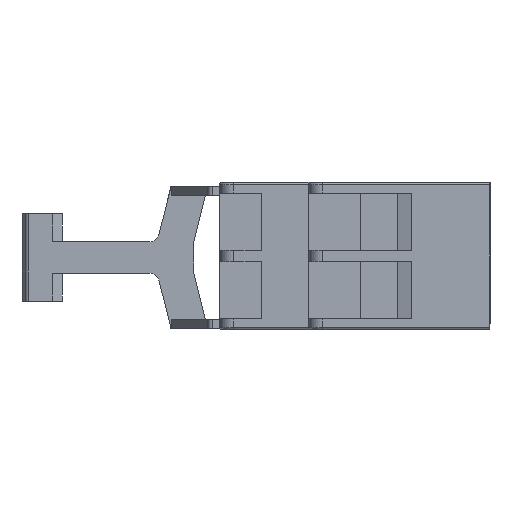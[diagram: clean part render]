
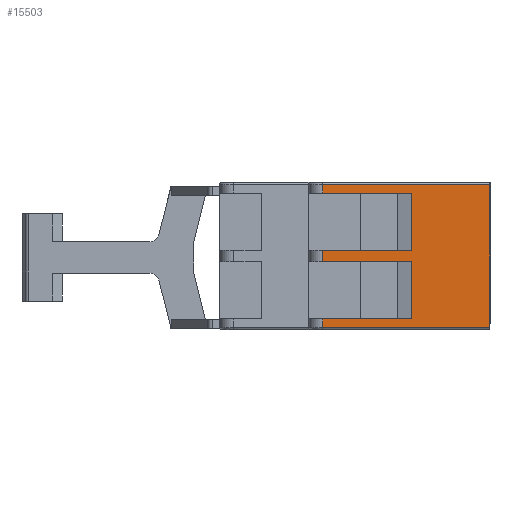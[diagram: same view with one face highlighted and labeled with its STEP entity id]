
A CAD part, left-side view. The second image highlights one B-rep face of the part: STEP entity #15503.
In plain terms, the highlighted planar face has unit normal (-1, 0, 0).
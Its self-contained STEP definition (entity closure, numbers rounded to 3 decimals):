
#59 = DIRECTION ( 'NONE',  ( 0., 0., 1. ) ) ;
#339 = DIRECTION ( 'NONE',  ( 0., 0., 1. ) ) ;
#785 = DIRECTION ( 'NONE',  ( 0., 0., 1. ) ) ;
#1073 = CARTESIAN_POINT ( 'NONE',  ( 0., 8.4, -6.75 ) ) ;
#1186 = VERTEX_POINT ( 'NONE', #23984 ) ;
#1610 = VERTEX_POINT ( 'NONE', #17027 ) ;
#1654 = ORIENTED_EDGE ( 'NONE', *, *, #24416, .F. ) ;
#2019 = VECTOR ( 'NONE', #14971, 1000. ) ;
#2100 = LINE ( 'NONE', #14652, #16519 ) ;
#3448 = FACE_OUTER_BOUND ( 'NONE', #13104, .T. ) ;
#3794 = EDGE_CURVE ( 'NONE', #9453, #18609, #6363, .T. ) ;
#3979 = EDGE_CURVE ( 'NONE', #18609, #1610, #13470, .T. ) ;
#4182 = CARTESIAN_POINT ( 'NONE',  ( 0., 0., 6.75 ) ) ;
#4527 = DIRECTION ( 'NONE',  ( 0., 1., 0. ) ) ;
#4717 = PLANE ( 'NONE',  #8297 ) ;
#5031 = CARTESIAN_POINT ( 'NONE',  ( 0., 0., -0.6 ) ) ;
#5145 = ORIENTED_EDGE ( 'NONE', *, *, #3979, .F. ) ;
#5231 = CARTESIAN_POINT ( 'NONE',  ( 0., 0., -7.65 ) ) ;
#5336 = ORIENTED_EDGE ( 'NONE', *, *, #9477, .F. ) ;
#5792 = VECTOR ( 'NONE', #339, 1000. ) ;
#6098 = VECTOR ( 'NONE', #4527, 1000. ) ;
#6236 = VECTOR ( 'NONE', #11889, 1000. ) ;
#6363 = LINE ( 'NONE', #4182, #6098 ) ;
#7192 = VERTEX_POINT ( 'NONE', #1073 ) ;
#7268 = CARTESIAN_POINT ( 'NONE',  ( 0., 8.4, 8. ) ) ;
#7383 = VECTOR ( 'NONE', #13967, 1000. ) ;
#8297 = AXIS2_PLACEMENT_3D ( 'NONE', #24148, #8773, #22264 ) ;
#8598 = CARTESIAN_POINT ( 'NONE',  ( 0., 0., -6.75 ) ) ;
#8773 = DIRECTION ( 'NONE',  ( 1., 0., 0. ) ) ;
#9453 = VERTEX_POINT ( 'NONE', #14894 ) ;
#9477 = EDGE_CURVE ( 'NONE', #1610, #23826, #14962, .T. ) ;
#9788 = VECTOR ( 'NONE', #14982, 1000. ) ;
#9881 = EDGE_CURVE ( 'NONE', #21869, #20169, #24444, .T. ) ;
#10242 = CARTESIAN_POINT ( 'NONE',  ( 0., 0., 8. ) ) ;
#10397 = ORIENTED_EDGE ( 'NONE', *, *, #13976, .F. ) ;
#10917 = ORIENTED_EDGE ( 'NONE', *, *, #24900, .F. ) ;
#11630 = VERTEX_POINT ( 'NONE', #14820 ) ;
#11713 = EDGE_CURVE ( 'NONE', #7192, #21869, #15006, .T. ) ;
#11889 = DIRECTION ( 'NONE',  ( 0., -1., 0. ) ) ;
#11956 = CARTESIAN_POINT ( 'NONE',  ( 0., 17.95, -0.6 ) ) ;
#12054 = CARTESIAN_POINT ( 'NONE',  ( 0., 0., -7.65 ) ) ;
#12302 = EDGE_CURVE ( 'NONE', #15713, #9453, #17647, .T. ) ;
#12424 = ORIENTED_EDGE ( 'NONE', *, *, #24479, .F. ) ;
#13104 = EDGE_LOOP ( 'NONE', ( #10917, #18502, #5336, #5145, #23449, #16584, #10397, #19012, #18976, #16517, #1654, #12424 ) ) ;
#13470 = LINE ( 'NONE', #21137, #14651 ) ;
#13967 = DIRECTION ( 'NONE',  ( 0., 1., 0. ) ) ;
#13976 = EDGE_CURVE ( 'NONE', #15972, #15713, #21163, .T. ) ;
#14651 = VECTOR ( 'NONE', #59, 1000. ) ;
#14652 = CARTESIAN_POINT ( 'NONE',  ( 0., 17.95, 8. ) ) ;
#14804 = VECTOR ( 'NONE', #18725, 1000. ) ;
#14820 = CARTESIAN_POINT ( 'NONE',  ( 0., 17.95, -6.75 ) ) ;
#14894 = CARTESIAN_POINT ( 'NONE',  ( 0., 8.4, 6.75 ) ) ;
#14962 = LINE ( 'NONE', #20665, #9788 ) ;
#14971 = DIRECTION ( 'NONE',  ( 0., 0., 1. ) ) ;
#14982 = DIRECTION ( 'NONE',  ( 0., -1., 0. ) ) ;
#15006 = LINE ( 'NONE', #15159, #19480 ) ;
#15036 = VECTOR ( 'NONE', #785, 1000. ) ;
#15159 = CARTESIAN_POINT ( 'NONE',  ( 0., 8.4, 8. ) ) ;
#15503 = ADVANCED_FACE ( 'NONE', ( #3448 ), #4717, .F. ) ;
#15713 = VERTEX_POINT ( 'NONE', #17220 ) ;
#15972 = VERTEX_POINT ( 'NONE', #19691 ) ;
#16154 = EDGE_CURVE ( 'NONE', #20169, #15972, #19514, .T. ) ;
#16517 = ORIENTED_EDGE ( 'NONE', *, *, #11713, .F. ) ;
#16519 = VECTOR ( 'NONE', #20425, 1000. ) ;
#16584 = ORIENTED_EDGE ( 'NONE', *, *, #12302, .F. ) ;
#17027 = CARTESIAN_POINT ( 'NONE',  ( 0., 17.95, 7.65 ) ) ;
#17060 = DIRECTION ( 'NONE',  ( 0., 0., 1. ) ) ;
#17220 = CARTESIAN_POINT ( 'NONE',  ( 0., 8.4, 0.6 ) ) ;
#17647 = LINE ( 'NONE', #7268, #2019 ) ;
#18328 = CARTESIAN_POINT ( 'NONE',  ( 0., 17.95, 6.75 ) ) ;
#18348 = VECTOR ( 'NONE', #24069, 1000. ) ;
#18502 = ORIENTED_EDGE ( 'NONE', *, *, #24286, .T. ) ;
#18609 = VERTEX_POINT ( 'NONE', #18328 ) ;
#18725 = DIRECTION ( 'NONE',  ( 0., 1., 0. ) ) ;
#18976 = ORIENTED_EDGE ( 'NONE', *, *, #9881, .F. ) ;
#19012 = ORIENTED_EDGE ( 'NONE', *, *, #16154, .F. ) ;
#19480 = VECTOR ( 'NONE', #17060, 1000. ) ;
#19514 = LINE ( 'NONE', #24168, #15036 ) ;
#19691 = CARTESIAN_POINT ( 'NONE',  ( 0., 17.95, 0.6 ) ) ;
#20169 = VERTEX_POINT ( 'NONE', #11956 ) ;
#20425 = DIRECTION ( 'NONE',  ( 0., 0., 1. ) ) ;
#20665 = CARTESIAN_POINT ( 'NONE',  ( 0., 21.5, 7.65 ) ) ;
#21137 = CARTESIAN_POINT ( 'NONE',  ( 0., 17.95, 8. ) ) ;
#21163 = LINE ( 'NONE', #25325, #6236 ) ;
#21339 = LINE ( 'NONE', #10242, #5792 ) ;
#21869 = VERTEX_POINT ( 'NONE', #22168 ) ;
#22168 = CARTESIAN_POINT ( 'NONE',  ( 0., 8.4, -0.6 ) ) ;
#22264 = DIRECTION ( 'NONE',  ( 0., 0., -1. ) ) ;
#22827 = LINE ( 'NONE', #12054, #7383 ) ;
#23200 = VERTEX_POINT ( 'NONE', #5231 ) ;
#23449 = ORIENTED_EDGE ( 'NONE', *, *, #3794, .F. ) ;
#23826 = VERTEX_POINT ( 'NONE', #24901 ) ;
#23984 = CARTESIAN_POINT ( 'NONE',  ( 0., 17.95, -7.65 ) ) ;
#24069 = DIRECTION ( 'NONE',  ( 0., -1., 0. ) ) ;
#24075 = LINE ( 'NONE', #8598, #18348 ) ;
#24148 = CARTESIAN_POINT ( 'NONE',  ( 0., 0., 8. ) ) ;
#24168 = CARTESIAN_POINT ( 'NONE',  ( 0., 17.95, 8. ) ) ;
#24286 = EDGE_CURVE ( 'NONE', #23200, #23826, #21339, .T. ) ;
#24416 = EDGE_CURVE ( 'NONE', #11630, #7192, #24075, .T. ) ;
#24444 = LINE ( 'NONE', #5031, #14804 ) ;
#24479 = EDGE_CURVE ( 'NONE', #1186, #11630, #2100, .T. ) ;
#24900 = EDGE_CURVE ( 'NONE', #23200, #1186, #22827, .T. ) ;
#24901 = CARTESIAN_POINT ( 'NONE',  ( 0., 0., 7.65 ) ) ;
#25325 = CARTESIAN_POINT ( 'NONE',  ( 0., 0., 0.6 ) ) ;
